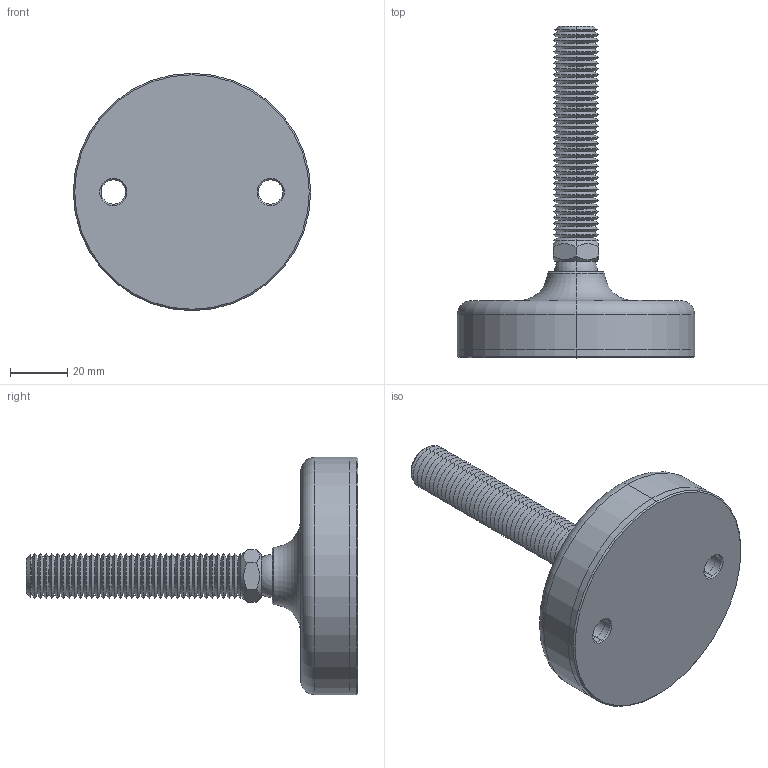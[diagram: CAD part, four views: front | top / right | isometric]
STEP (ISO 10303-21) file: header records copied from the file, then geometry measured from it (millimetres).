
FILE_DESCRIPTION (( 'STEP AP203' ), '1' );
FILE_NAME ('34724.W1601.step', '2019-11-28T22:11:24', ( '' ), ( '' ), 'SwSTEP 2.0', 'SolidWorks 2017', '' );
FILE_SCHEMA (( 'CONFIG_CONTROL_DESIGN' ));
Length unit declared in the file: millimetre
Products named in the file (4): Part1_34724.W1601; Part2_34724.W1601; Part3_34724.W1601; 34724.W1601
Assembly tree (3 placements, depth 2):
  34724.W1601
    Part1_34724.W1601
    Part2_34724.W1601
    Part3_34724.W1601
Bounding box: 83 x 116 x 83 mm (x, y, z)
Volume: 123461.6 mm3; surface area: 35201.8 mm2
Topology: 3 solids, 3 shells, 200 faces, 415 edges, 221 vertices
Faces by surface type: cone 166, plane 14, cylinder 12, sphere 4, torus 4
Entity records: 5662 total; most frequent: DIRECTION 1016, CARTESIAN_POINT 976, ORIENTED_EDGE 812, AXIS2_PLACEMENT_3D 416, EDGE_CURVE 406, VERTEX_POINT 216, EDGE_LOOP 212, CIRCLE 210
